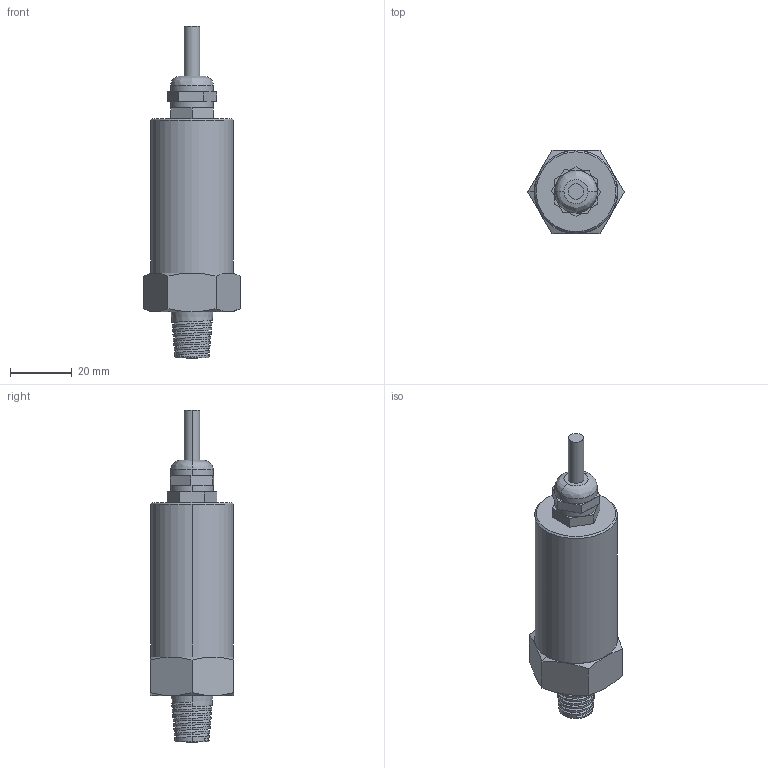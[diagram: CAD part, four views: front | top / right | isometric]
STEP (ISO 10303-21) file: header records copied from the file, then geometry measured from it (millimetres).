
FILE_DESCRIPTION (( 'STEP AP214' ), '1' );
FILE_NAME ('LD30-XXXX.STEP', '2025-06-03T20:15:22', ( '' ), ( '' ), 'SwSTEP 2.0', 'SolidWorks 2013', '' );
FILE_SCHEMA (( 'AUTOMOTIVE_DESIGN' ));
Length unit declared in the file: inch
Products named in the file (1): LD30-XXXX
Bounding box: 31.18 x 27 x 107.5 mm (x, y, z)
Volume: 39976.1 mm3; surface area: 8565.7 mm2
Topology: 1 solids, 1 shells, 87 faces, 205 edges, 126 vertices
Faces by surface type: plane 40, cone 33, cylinder 10, bspline 4
Entity records: 5821 total; most frequent: CARTESIAN_POINT 2744, ORIENTED_EDGE 410, DIRECTION 368, EDGE_CURVE 205, AXIS2_PLACEMENT_3D 138, VERTEX_POINT 126, EDGE_LOOP 93, VECTOR 92
